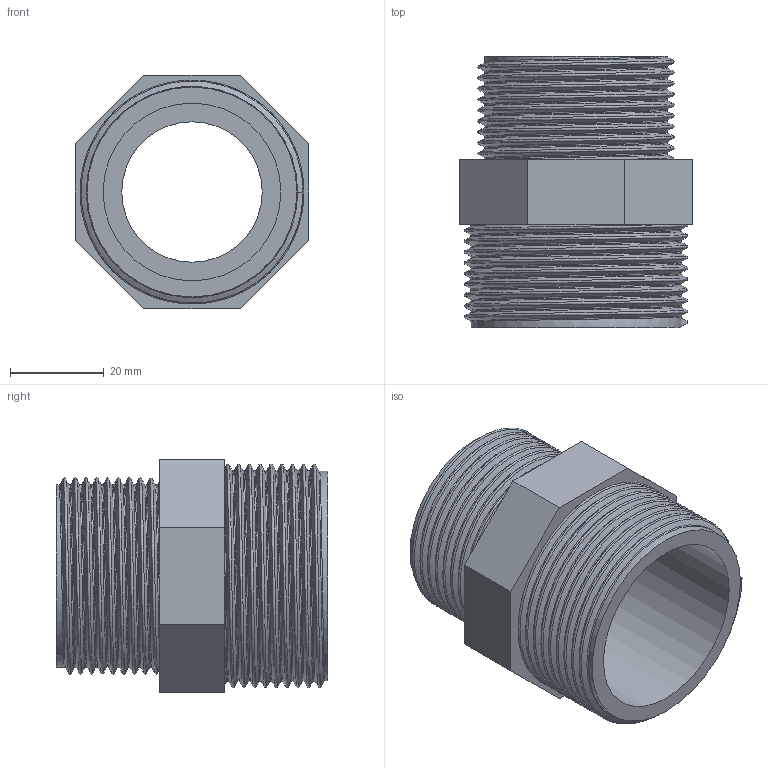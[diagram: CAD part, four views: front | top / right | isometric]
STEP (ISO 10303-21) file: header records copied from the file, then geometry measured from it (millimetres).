
FILE_DESCRIPTION(/* description */ ('PVC nipplo ridotto filettato BSP'),/* implementation_level */ '2;1');
FILE_NAME(/* name */ 'C:\Users\POLYPIPE\Desktop\DATASET INVENTOR\LIBRERIA EFFAST\RACCORDI 3DxWEB\RER\3D_RERNRE\3D_RERNRE050E.stp',/* time_stamp */ '2018-01-19T16:46:43+01:00',/* author */ ('POLYPIPE'),/* organization */ ('Polypipe Italia s.r.l.'),/* preprocessor_version */ 'ST-DEVELOPER v16.1',/* originating_system */ 'Autodesk Inventor 2016',/* authorisation */ '');
FILE_SCHEMA (('CONFIG_CONTROL_DESIGN'));
Length unit declared in the file: millimetre
Products named in the file (1): 3D_RERNRE
Bounding box: 50 x 58 x 50 mm (x, y, z)
Volume: 40744.6 mm3; surface area: 21073.8 mm2
Topology: 1 solids, 1 shells, 29 faces, 66 edges, 42 vertices
Faces by surface type: plane 15, bspline 10, cylinder 4
Full cylindrical faces by diameter (mm): 30 x1, 38 x1, 38.952 x1, 44.845 x1
Entity records: 8138 total; most frequent: CARTESIAN_POINT 7526, ORIENTED_EDGE 128, DIRECTION 94, EDGE_CURVE 64, VERTEX_POINT 42, EDGE_LOOP 36, AXIS2_PLACEMENT_3D 32, LINE 30
